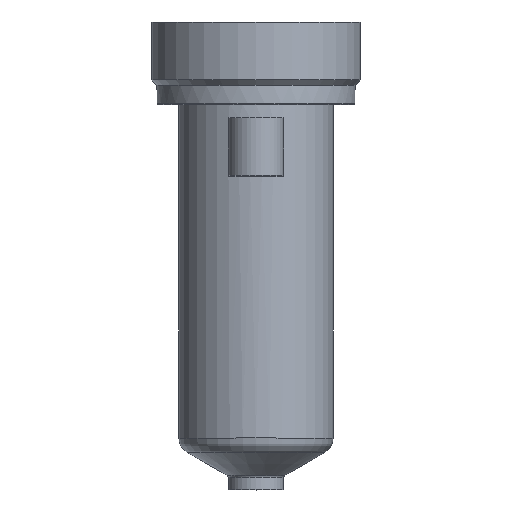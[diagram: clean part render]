
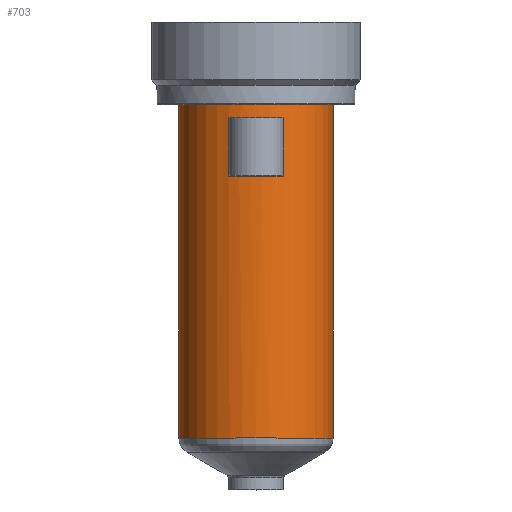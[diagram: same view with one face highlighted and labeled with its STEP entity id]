
A CAD part, top view. The second image highlights one B-rep face of the part: STEP entity #703.
In plain terms, the highlighted cylindrical face has radius 14 mm (diameter 28 mm), a partial arc.
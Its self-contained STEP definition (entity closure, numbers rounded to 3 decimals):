
#195=DIRECTION('',(0.,-1.,0.));
#196=VECTOR('',#195,60.583);
#197=CARTESIAN_POINT('',(14.,0.,0.));
#198=LINE('',#197,#196);
#199=CARTESIAN_POINT('',(0.,-60.583,0.));
#200=DIRECTION('',(0.,1.,0.));
#201=DIRECTION('',(-1.,0.,0.));
#202=AXIS2_PLACEMENT_3D('',#199,#200,#201);
#204=DIRECTION('',(0.,1.,0.));
#205=VECTOR('',#204,60.583);
#206=CARTESIAN_POINT('',(-14.,-60.583,0.));
#207=LINE('',#206,#205);
#208=CARTESIAN_POINT('',(0.,0.,0.));
#209=DIRECTION('',(0.,1.,0.));
#210=DIRECTION('',(-1.,0.,0.));
#211=AXIS2_PLACEMENT_3D('',#208,#209,#210);
#289=DIRECTION('',(0.,-1.,0.));
#290=VECTOR('',#289,10.5);
#291=CARTESIAN_POINT('',(-5.,-2.5,13.077));
#292=LINE('',#291,#290);
#297=CARTESIAN_POINT('',(0.,-13.,0.));
#298=DIRECTION('',(0.,1.,0.));
#299=DIRECTION('',(-0.357,0.,0.934));
#300=AXIS2_PLACEMENT_3D('',#297,#298,#299);
#332=CARTESIAN_POINT('',(0.,-2.5,0.));
#333=DIRECTION('',(0.,-1.,0.));
#334=DIRECTION('',(0.357,0.,0.934));
#335=AXIS2_PLACEMENT_3D('',#332,#333,#334);
#337=DIRECTION('',(0.,-1.,0.));
#338=VECTOR('',#337,10.5);
#339=CARTESIAN_POINT('',(5.,-2.5,13.077));
#340=LINE('',#339,#338);
#398=CARTESIAN_POINT('',(-14.,0.,0.));
#399=CARTESIAN_POINT('',(14.,0.,0.));
#400=VERTEX_POINT('',#398);
#401=VERTEX_POINT('',#399);
#410=CARTESIAN_POINT('',(5.,-2.5,13.077));
#411=VERTEX_POINT('',#410);
#412=CARTESIAN_POINT('',(-5.,-2.5,13.077));
#413=VERTEX_POINT('',#412);
#450=CARTESIAN_POINT('',(14.,-60.583,0.));
#451=VERTEX_POINT('',#450);
#460=CARTESIAN_POINT('',(-14.,-60.583,0.));
#461=VERTEX_POINT('',#460);
#462=CARTESIAN_POINT('',(-5.,-13.,13.077));
#463=CARTESIAN_POINT('',(5.,-13.,13.077));
#464=VERTEX_POINT('',#462);
#465=VERTEX_POINT('',#463);
#681=CARTESIAN_POINT('',(0.,16.4,0.));
#682=DIRECTION('',(0.,-1.,0.));
#683=DIRECTION('',(-1.,0.,0.));
#684=AXIS2_PLACEMENT_3D('',#681,#682,#683);
#685=CYLINDRICAL_SURFACE('',#684,14.);
#686=ORIENTED_EDGE('',*,*,#675,.T.);
#688=ORIENTED_EDGE('',*,*,#687,.F.);
#689=ORIENTED_EDGE('',*,*,#671,.T.);
#690=ORIENTED_EDGE('',*,*,#661,.T.);
#691=EDGE_LOOP('',(#686,#688,#689,#690));
#692=FACE_OUTER_BOUND('',#691,.F.);
#694=ORIENTED_EDGE('',*,*,#693,.T.);
#696=ORIENTED_EDGE('',*,*,#695,.T.);
#698=ORIENTED_EDGE('',*,*,#697,.F.);
#700=ORIENTED_EDGE('',*,*,#699,.T.);
#701=EDGE_LOOP('',(#694,#696,#698,#700));
#702=FACE_BOUND('',#701,.F.);
#703=ADVANCED_FACE('',(#692,#702),#685,.T.);
#203=CIRCLE('',#202,14.);
#212=CIRCLE('',#211,14.);
#301=CIRCLE('',#300,14.);
#336=CIRCLE('',#335,14.);
#661=EDGE_CURVE('',#400,#401,#212,.T.);
#671=EDGE_CURVE('',#461,#400,#207,.T.);
#675=EDGE_CURVE('',#401,#451,#198,.T.);
#687=EDGE_CURVE('',#461,#451,#203,.T.);
#693=EDGE_CURVE('',#413,#464,#292,.T.);
#695=EDGE_CURVE('',#464,#465,#301,.T.);
#697=EDGE_CURVE('',#411,#465,#340,.T.);
#699=EDGE_CURVE('',#411,#413,#336,.T.);
